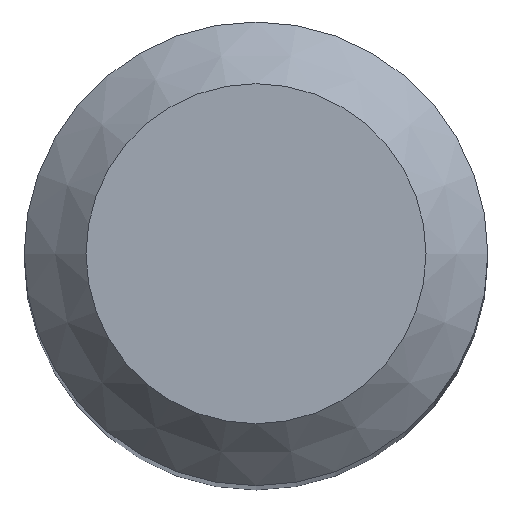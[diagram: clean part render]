
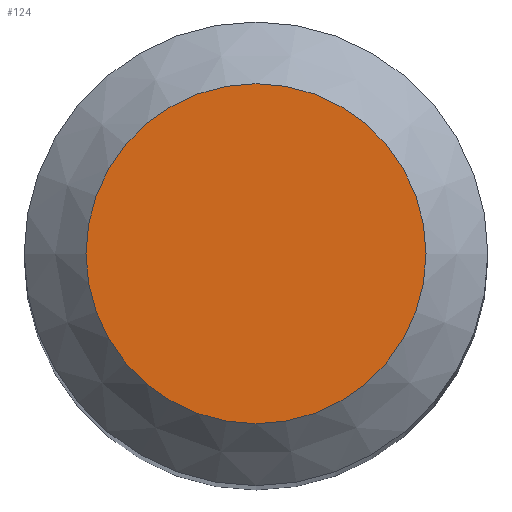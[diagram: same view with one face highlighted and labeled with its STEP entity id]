
A CAD part, top view. The second image highlights one B-rep face of the part: STEP entity #124.
In plain terms, the highlighted planar face has unit normal (0, 0, 1).
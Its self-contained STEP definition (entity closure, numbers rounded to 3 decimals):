
#108=CARTESIAN_POINT('',(2.2,0.0,50.0));
#109=DIRECTION('',(0.0,0.0,1.0));
#110=DIRECTION('',(1.0,0.0,0.0));
#111=AXIS2_PLACEMENT_3D('',#108,#109,#110);
#112=PLANE('',#111);
#113=CARTESIAN_POINT('',(-2.2,0.0,50.0));
#114=VERTEX_POINT('',#113);
#115=CARTESIAN_POINT('',(0.0,0.0,50.0));
#116=DIRECTION('',(0.0,0.0,-1.0));
#117=DIRECTION('',(-1.0,0.0,0.0));
#118=AXIS2_PLACEMENT_3D('',#115,#116,#117);
#119=CIRCLE('',#118,2.2);
#120=EDGE_CURVE('',#114,#114,#119,.T.);
#121=ORIENTED_EDGE('',*,*,#120,.F.);
#122=EDGE_LOOP('',(#121));
#123=FACE_OUTER_BOUND('',#122,.T.);
#124=ADVANCED_FACE('',(#123),#112,.T.);
